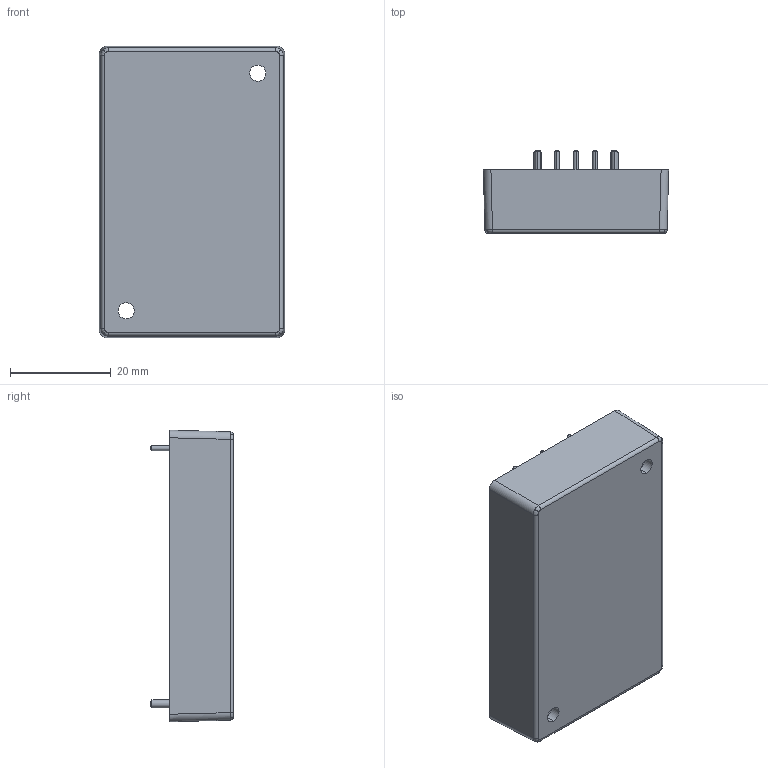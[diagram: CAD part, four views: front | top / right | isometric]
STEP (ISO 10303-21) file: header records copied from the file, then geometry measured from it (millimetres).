
FILE_DESCRIPTION (( 'STEP AP214' ), '1' );
FILE_NAME ('REM60-W_3D_20230223.STEP', '2023-02-23T15:14:05', ( '' ), ( '' ), 'SwSTEP 2.0', 'SolidWorks 2020', '' );
FILE_SCHEMA (( 'AUTOMOTIVE_DESIGN' ));
Length unit declared in the file: millimetre
Products named in the file (1): REM60-W_3D_20230223
Bounding box: 36.8 x 16.5 x 57.9 mm (x, y, z)
Volume: 25252.5 mm3; surface area: 11606.4 mm2
Topology: 1 solids, 1 shells, 412 faces, 1124 edges, 740 vertices
Faces by surface type: plane 307, cone 55, cylinder 40, bspline 10
Entity records: 14258 total; most frequent: CARTESIAN_POINT 2659, ORIENTED_EDGE 2248, DIRECTION 2060, EDGE_CURVE 1124, LINE 906, VECTOR 906, VERTEX_POINT 740, AXIS2_PLACEMENT_3D 577
